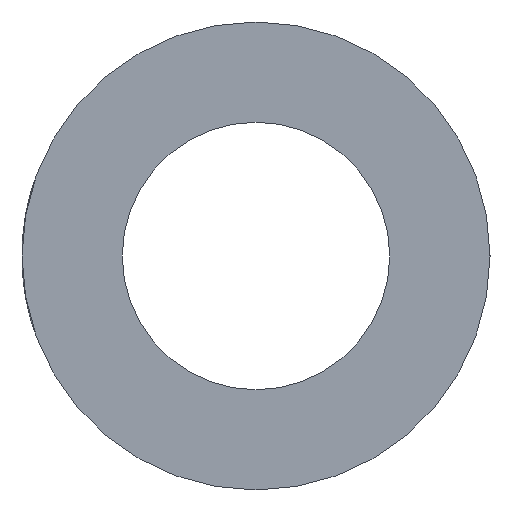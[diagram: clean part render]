
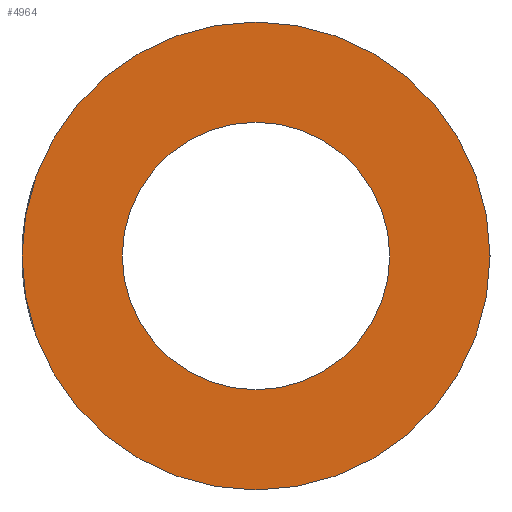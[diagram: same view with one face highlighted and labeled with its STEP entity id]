
A CAD part, left-side view. The second image highlights one B-rep face of the part: STEP entity #4964.
In plain terms, the highlighted planar face has unit normal (-1, 0, 0).
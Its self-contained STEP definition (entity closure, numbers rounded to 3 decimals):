
#113=PLANE('',#5349);
#341=CIRCLE('',#5348,10.5);
#342=CIRCLE('',#5350,6.);
#1486=ORIENTED_EDGE('',*,*,#2986,.T.);
#1487=ORIENTED_EDGE('',*,*,#2985,.F.);
#2985=EDGE_CURVE('',#3735,#3735,#341,.T.);
#2986=EDGE_CURVE('',#3736,#3736,#342,.T.);
#3735=VERTEX_POINT('',#7757);
#3736=VERTEX_POINT('',#7760);
#4235=EDGE_LOOP('',(#1486));
#4236=EDGE_LOOP('',(#1487));
#4594=FACE_BOUND('',#4235,.T.);
#4595=FACE_BOUND('',#4236,.T.);
#4964=ADVANCED_FACE('',(#4594,#4595),#113,.F.);
#5348=AXIS2_PLACEMENT_3D('',#7756,#5860,#5861);
#5349=AXIS2_PLACEMENT_3D('',#7758,#5862,#5863);
#5350=AXIS2_PLACEMENT_3D('',#7759,#5864,#5865);
#5860=DIRECTION('',(1.,0.,0.));
#5861=DIRECTION('',(0.,0.,-1.));
#5862=DIRECTION('',(1.,0.,0.));
#5863=DIRECTION('',(0.,0.,-1.));
#5864=DIRECTION('',(1.,0.,0.));
#5865=DIRECTION('',(0.,0.,-1.));
#7756=CARTESIAN_POINT('',(-15.,0.,0.));
#7757=CARTESIAN_POINT('',(-15.,0.,-10.5));
#7758=CARTESIAN_POINT('',(-15.,0.,0.));
#7759=CARTESIAN_POINT('',(-15.,0.,0.));
#7760=CARTESIAN_POINT('',(-15.,0.,-6.));
